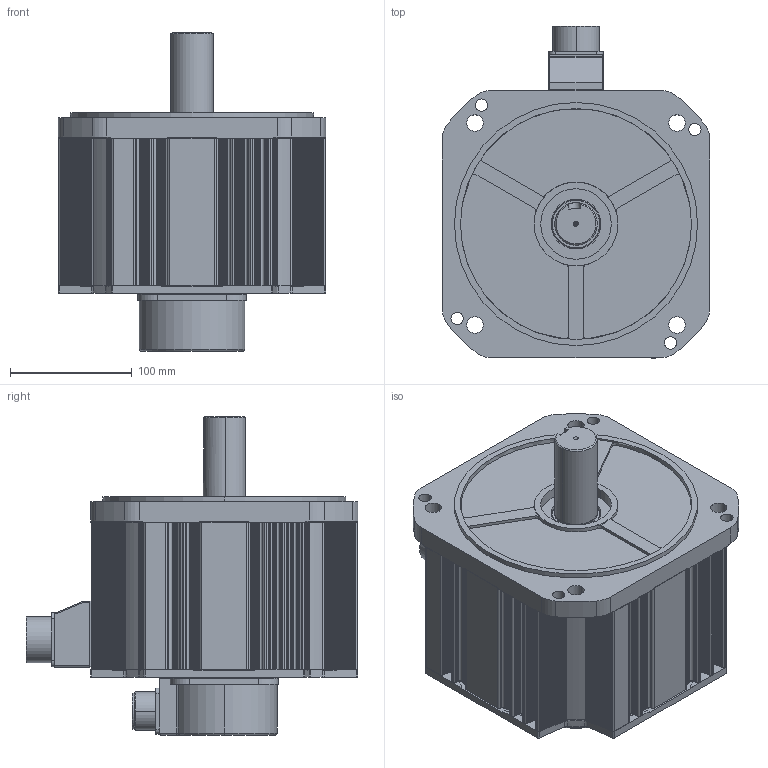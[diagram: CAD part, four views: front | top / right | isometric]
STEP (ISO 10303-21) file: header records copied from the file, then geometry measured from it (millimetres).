
FILE_DESCRIPTION (( 'STEP AP203' ), '1' );
FILE_NAME ('KANF-75G¡à9N2.STEP', '2026-09-12T00:55:18', ( '' ), ( '' ), 'SwSTEP 2.0', 'SolidWorks 2023', '' );
FILE_SCHEMA (( 'CONFIG_CONTROL_DESIGN' ));
Length unit declared in the file: millimetre
Products named in the file (11): Ø35-KEY10X50; KANF-75G□9N2; □220-121.0mm; 10050907 RUBBER SEAL_MS22 or MS24; MS3102A 24-11P_표준; 1005053102 ENCODER COVER; □220 FLANGE; 10050532 GASKET_미돌출형; □220 BRACKET_BR; 10050908 CONNECTOR BOX_MS22 or MS24; MS3102A 20-29P
Assembly tree (10 placements, depth 2):
  KANF-75G□9N2
    □220-121.0mm
    □220 FLANGE
    □220 BRACKET_BR
    10050532 GASKET_미돌출형
    1005053102 ENCODER COVER
    MS3102A 20-29P
    10050907 RUBBER SEAL_MS22 or MS24
    10050908 CONNECTOR BOX_MS22 or MS24
    MS3102A 24-11P_표준
    Ø35-KEY10X50
Bounding box: 220 x 273.12 x 262.5 mm (x, y, z)
Volume: 1759240.9 mm3; surface area: 595768.5 mm2
Topology: 10 solids, 10 shells, 1996 faces, 5710 edges, 3774 vertices
Faces by surface type: plane 1182, cylinder 720, cone 44, bspline 35, torus 13, sphere 2
Entity records: 67869 total; most frequent: CARTESIAN_POINT 13336, ORIENTED_EDGE 11368, DIRECTION 11082, EDGE_CURVE 5684, VECTOR 3956, LINE 3956, VERTEX_POINT 3774, AXIS2_PLACEMENT_3D 3563
